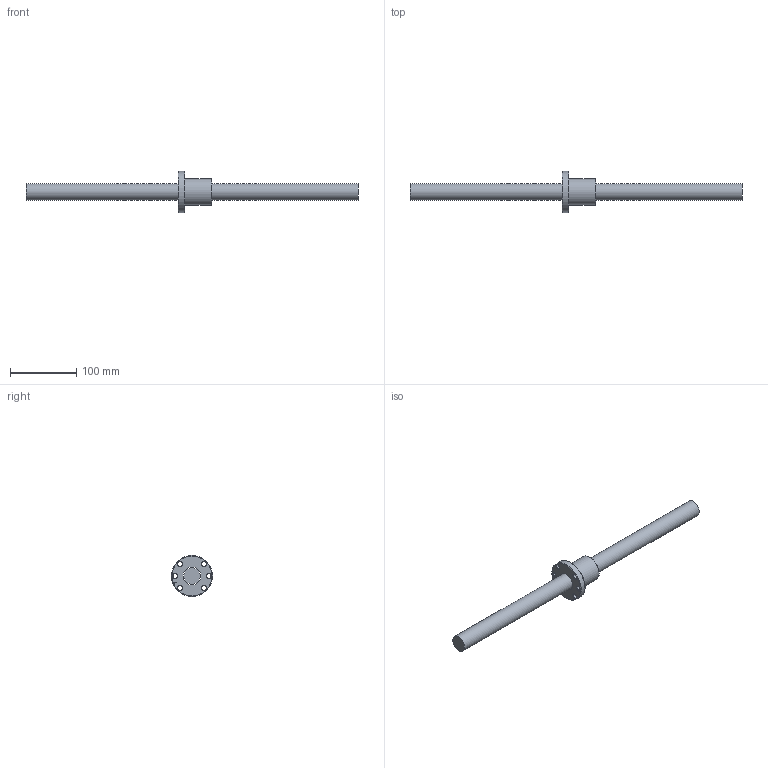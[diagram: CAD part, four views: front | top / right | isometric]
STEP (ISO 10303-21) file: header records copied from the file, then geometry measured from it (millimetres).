
FILE_DESCRIPTION (( 'STEP AP203' ), '1' );
FILE_NAME ('SFNU02505N-4.step', '2024-05-14T06:34:25', ( '' ), ( '' ), 'SwSTEP 2.0', 'SolidWorks 2022', '' );
FILE_SCHEMA (( 'CONFIG_CONTROL_DESIGN' ));
Length unit declared in the file: millimetre
Products named in the file (1): SFNU02505N-4
Bounding box: 500 x 62 x 62 mm (x, y, z)
Volume: 294837 mm3; surface area: 57336.5 mm2
Topology: 2 solids, 2 shells, 45 faces, 111 edges, 71 vertices
Faces by surface type: cylinder 18, cone 13, plane 6, bspline 5, torus 3
Full cylindrical faces by diameter (mm): 4 x1, 5 x6, 6.6 x6, 25 x1, 27.1 x1, 40 x1, 62 x1
Entity records: 2703 total; most frequent: CARTESIAN_POINT 1908, DIRECTION 148, ORIENTED_EDGE 102, EDGE_LOOP 84, AXIS2_PLACEMENT_3D 72, FACE_OUTER_BOUND 54, EDGE_CURVE 51, VERTEX_POINT 47
